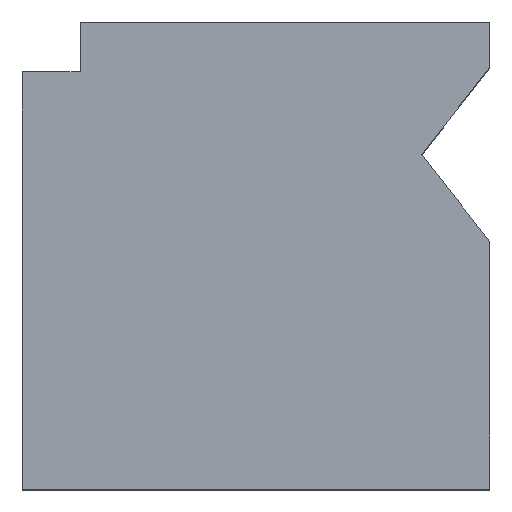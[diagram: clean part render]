
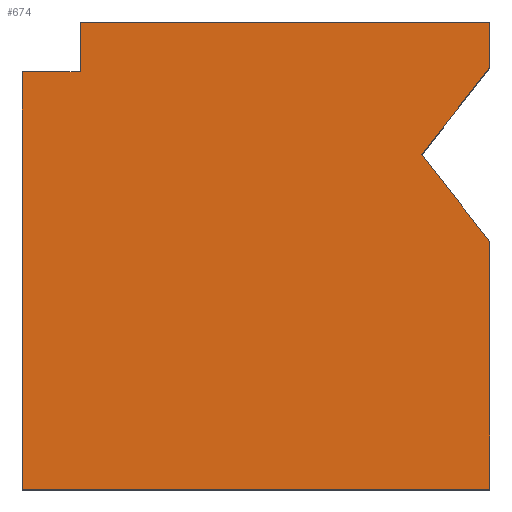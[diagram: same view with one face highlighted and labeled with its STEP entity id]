
A CAD part, top view. The second image highlights one B-rep face of the part: STEP entity #674.
In plain terms, the highlighted planar face has unit normal (0, 0, 1).
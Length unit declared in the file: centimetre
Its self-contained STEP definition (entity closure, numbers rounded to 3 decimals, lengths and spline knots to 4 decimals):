
#7 = LINE ( 'NONE', #639, #192 ) ;
#27 = VECTOR ( 'NONE', #157, 100. ) ;
#42 = EDGE_CURVE ( 'NONE', #429, #485, #200, .T. ) ;
#54 = LINE ( 'NONE', #59, #74 ) ;
#59 = CARTESIAN_POINT ( 'NONE',  ( 0., 1000., 1000. ) ) ;
#65 = VERTEX_POINT ( 'NONE', #143 ) ;
#74 = VECTOR ( 'NONE', #531, 100. ) ;
#102 = CARTESIAN_POINT ( 'NONE',  ( 0., 893.0144, 1000. ) ) ;
#109 = CARTESIAN_POINT ( 'NONE',  ( 0., 0., 1000. ) ) ;
#111 = EDGE_LOOP ( 'NONE', ( #488, #187, #642, #154, #258, #380, #221, #265, #657 ) ) ;
#123 = LINE ( 'NONE', #213, #557 ) ;
#139 = CARTESIAN_POINT ( 'NONE',  ( 123.5451, 893.0144, 1000. ) ) ;
#142 = LINE ( 'NONE', #139, #462 ) ;
#143 = CARTESIAN_POINT ( 'NONE',  ( 0., 893.0144, 1000. ) ) ;
#144 = DIRECTION ( 'NONE',  ( 0., -1., 0. ) ) ;
#154 = ORIENTED_EDGE ( 'NONE', *, *, #508, .T. ) ;
#157 = DIRECTION ( 'NONE',  ( 0., 1., 0. ) ) ;
#161 = VECTOR ( 'NONE', #579, 100. ) ;
#181 = CARTESIAN_POINT ( 'NONE',  ( 854.6686, 716.4531, 1000. ) ) ;
#187 = ORIENTED_EDGE ( 'NONE', *, *, #293, .T. ) ;
#192 = VECTOR ( 'NONE', #381, 100. ) ;
#200 = LINE ( 'NONE', #417, #161 ) ;
#208 = PLANE ( 'NONE',  #690 ) ;
#213 = CARTESIAN_POINT ( 'NONE',  ( 1000., 1000., 1000. ) ) ;
#221 = ORIENTED_EDGE ( 'NONE', *, *, #420, .T. ) ;
#224 = LINE ( 'NONE', #447, #27 ) ;
#242 = CARTESIAN_POINT ( 'NONE',  ( 854.6686, 716.4531, 1000. ) ) ;
#258 = ORIENTED_EDGE ( 'NONE', *, *, #668, .T. ) ;
#262 = EDGE_CURVE ( 'NONE', #386, #429, #123, .T. ) ;
#265 = ORIENTED_EDGE ( 'NONE', *, *, #262, .T. ) ;
#284 = CARTESIAN_POINT ( 'NONE',  ( 123.5451, 1000., 1000. ) ) ;
#293 = EDGE_CURVE ( 'NONE', #541, #423, #224, .T. ) ;
#299 = VECTOR ( 'NONE', #666, 100. ) ;
#311 = CARTESIAN_POINT ( 'NONE',  ( 1000., 902.385, 1000. ) ) ;
#313 = VERTEX_POINT ( 'NONE', #646 ) ;
#342 = CARTESIAN_POINT ( 'NONE',  ( 0., 0., 1000. ) ) ;
#352 = VECTOR ( 'NONE', #700, 100. ) ;
#370 = VERTEX_POINT ( 'NONE', #284 ) ;
#380 = ORIENTED_EDGE ( 'NONE', *, *, #684, .T. ) ;
#381 = DIRECTION ( 'NONE',  ( -1., 0., 0. ) ) ;
#386 = VERTEX_POINT ( 'NONE', #401 ) ;
#399 = VECTOR ( 'NONE', #499, 100. ) ;
#400 = VERTEX_POINT ( 'NONE', #608 ) ;
#401 = CARTESIAN_POINT ( 'NONE',  ( 1000., 0., 1000. ) ) ;
#417 = CARTESIAN_POINT ( 'NONE',  ( 1000., 530.5212, 1000. ) ) ;
#420 = EDGE_CURVE ( 'NONE', #400, #386, #615, .T. ) ;
#423 = VERTEX_POINT ( 'NONE', #556 ) ;
#424 = DIRECTION ( 'NONE',  ( 1., 0., 0. ) ) ;
#429 = VERTEX_POINT ( 'NONE', #506 ) ;
#446 = EDGE_CURVE ( 'NONE', #485, #541, #452, .T. ) ;
#447 = CARTESIAN_POINT ( 'NONE',  ( 1000., 1000., 1000. ) ) ;
#452 = LINE ( 'NONE', #181, #299 ) ;
#462 = VECTOR ( 'NONE', #144, 100. ) ;
#485 = VERTEX_POINT ( 'NONE', #242 ) ;
#488 = ORIENTED_EDGE ( 'NONE', *, *, #446, .T. ) ;
#499 = DIRECTION ( 'NONE',  ( 1., 0., 0. ) ) ;
#506 = CARTESIAN_POINT ( 'NONE',  ( 1000., 530.5212, 1000. ) ) ;
#508 = EDGE_CURVE ( 'NONE', #370, #313, #142, .T. ) ;
#531 = DIRECTION ( 'NONE',  ( 0., -1., 0. ) ) ;
#536 = DIRECTION ( 'NONE',  ( 0., 0., 1. ) ) ;
#541 = VERTEX_POINT ( 'NONE', #311 ) ;
#542 = LINE ( 'NONE', #102, #352 ) ;
#556 = CARTESIAN_POINT ( 'NONE',  ( 1000., 1000., 1000. ) ) ;
#557 = VECTOR ( 'NONE', #606, 100. ) ;
#579 = DIRECTION ( 'NONE',  ( -0.616, 0.788, 0. ) ) ;
#606 = DIRECTION ( 'NONE',  ( 0., 1., 0. ) ) ;
#608 = CARTESIAN_POINT ( 'NONE',  ( 0., 0., 1000. ) ) ;
#615 = LINE ( 'NONE', #342, #399 ) ;
#639 = CARTESIAN_POINT ( 'NONE',  ( 0., 1000., 1000. ) ) ;
#642 = ORIENTED_EDGE ( 'NONE', *, *, #651, .T. ) ;
#646 = CARTESIAN_POINT ( 'NONE',  ( 123.5451, 893.0144, 1000. ) ) ;
#651 = EDGE_CURVE ( 'NONE', #423, #370, #7, .T. ) ;
#657 = ORIENTED_EDGE ( 'NONE', *, *, #42, .T. ) ;
#666 = DIRECTION ( 'NONE',  ( 0.616, 0.788, 0. ) ) ;
#668 = EDGE_CURVE ( 'NONE', #313, #65, #542, .T. ) ;
#674 = ADVANCED_FACE ( 'NONE', ( #694 ), #208, .T. ) ;
#684 = EDGE_CURVE ( 'NONE', #65, #400, #54, .T. ) ;
#690 = AXIS2_PLACEMENT_3D ( 'NONE', #109, #536, #424 ) ;
#694 = FACE_OUTER_BOUND ( 'NONE', #111, .T. ) ;
#700 = DIRECTION ( 'NONE',  ( -1., 0., 0. ) ) ;
